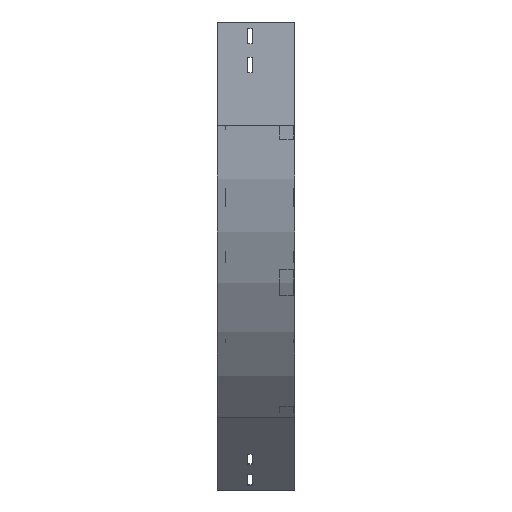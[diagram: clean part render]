
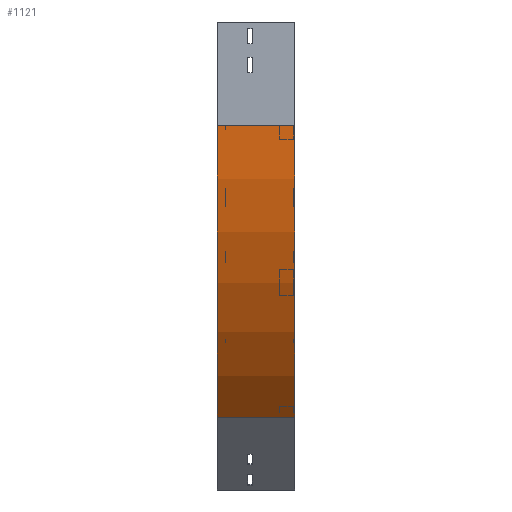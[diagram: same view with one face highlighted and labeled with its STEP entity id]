
A CAD part, left-side view. The second image highlights one B-rep face of the part: STEP entity #1121.
In plain terms, the highlighted cylindrical face has radius 600 mm (diameter 1200 mm), a partial arc.
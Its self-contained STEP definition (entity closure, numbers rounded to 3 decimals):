
#36 = DIRECTION ( 'NONE',  ( 0., -1., 0. ) ) ;
#73 = EDGE_CURVE ( 'NONE', #462, #2780, #265, .T. ) ;
#113 = VECTOR ( 'NONE', #36, 1000. ) ;
#142 = ORIENTED_EDGE ( 'NONE', *, *, #73, .T. ) ;
#180 = VERTEX_POINT ( 'NONE', #2677 ) ;
#265 = CIRCLE ( 'NONE', #942, 600. ) ;
#446 = LINE ( 'NONE', #2467, #3619 ) ;
#462 = VERTEX_POINT ( 'NONE', #1070 ) ;
#589 = CIRCLE ( 'NONE', #1418, 600. ) ;
#849 = DIRECTION ( 'NONE',  ( -1., 0., 0. ) ) ;
#910 = CARTESIAN_POINT ( 'NONE',  ( 600., 0., -150. ) ) ;
#942 = AXIS2_PLACEMENT_3D ( 'NONE', #3781, #1134, #849 ) ;
#1070 = CARTESIAN_POINT ( 'NONE',  ( 0., 112.5, -150. ) ) ;
#1121 = ADVANCED_FACE ( 'NONE', ( #1494 ), #2392, .T. ) ;
#1134 = DIRECTION ( 'NONE',  ( 0., -1., 0. ) ) ;
#1244 = CARTESIAN_POINT ( 'NONE',  ( 175.736, 0., -574.264 ) ) ;
#1296 = VERTEX_POINT ( 'NONE', #2617 ) ;
#1418 = AXIS2_PLACEMENT_3D ( 'NONE', #910, #1541, #2079 ) ;
#1494 = FACE_OUTER_BOUND ( 'NONE', #2365, .T. ) ;
#1541 = DIRECTION ( 'NONE',  ( 0., -1., 0. ) ) ;
#1591 = CARTESIAN_POINT ( 'NONE',  ( 175.736, 112.5, -574.264 ) ) ;
#1859 = ORIENTED_EDGE ( 'NONE', *, *, #3179, .F. ) ;
#1898 = EDGE_CURVE ( 'NONE', #1296, #180, #589, .T. ) ;
#1960 = LINE ( 'NONE', #1244, #113 ) ;
#2079 = DIRECTION ( 'NONE',  ( -1., 0., 0. ) ) ;
#2105 = DIRECTION ( 'NONE',  ( 0., -1., 0. ) ) ;
#2365 = EDGE_LOOP ( 'NONE', ( #2497, #1859, #142, #3158 ) ) ;
#2392 = CYLINDRICAL_SURFACE ( 'NONE', #2521, 600. ) ;
#2467 = CARTESIAN_POINT ( 'NONE',  ( 0., 0., -150. ) ) ;
#2497 = ORIENTED_EDGE ( 'NONE', *, *, #1898, .F. ) ;
#2521 = AXIS2_PLACEMENT_3D ( 'NONE', #3015, #2105, #2715 ) ;
#2617 = CARTESIAN_POINT ( 'NONE',  ( 0., 0., -150. ) ) ;
#2677 = CARTESIAN_POINT ( 'NONE',  ( 175.736, 0., -574.264 ) ) ;
#2715 = DIRECTION ( 'NONE',  ( 0., 0., -1. ) ) ;
#2745 = EDGE_CURVE ( 'NONE', #2780, #180, #1960, .T. ) ;
#2780 = VERTEX_POINT ( 'NONE', #1591 ) ;
#2784 = DIRECTION ( 'NONE',  ( 0., -1., 0. ) ) ;
#3015 = CARTESIAN_POINT ( 'NONE',  ( 600., 0., -150. ) ) ;
#3158 = ORIENTED_EDGE ( 'NONE', *, *, #2745, .T. ) ;
#3179 = EDGE_CURVE ( 'NONE', #462, #1296, #446, .T. ) ;
#3619 = VECTOR ( 'NONE', #2784, 1000. ) ;
#3781 = CARTESIAN_POINT ( 'NONE',  ( 600., 112.5, -150. ) ) ;
